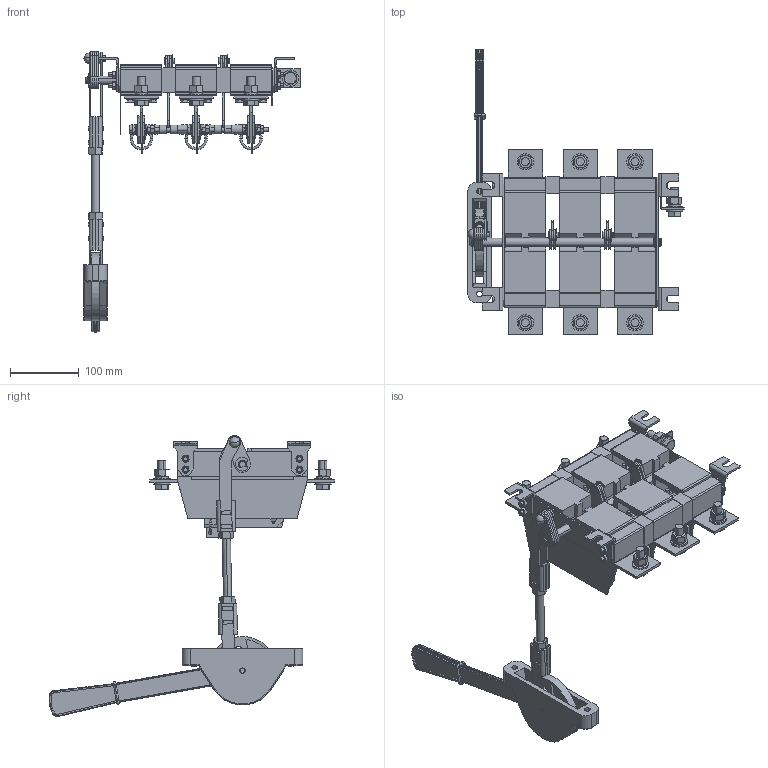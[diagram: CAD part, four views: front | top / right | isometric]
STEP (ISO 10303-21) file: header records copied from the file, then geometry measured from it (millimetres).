
FILE_DESCRIPTION (( 'STEP AP214' ), '1' );
FILE_NAME ('Ðàçúåäèíèòåëü ÐÅ19-39-31140-630À-ÓÕË3-ÊÝÀÇ.STEP', '2023-08-21T08:45:54', ( '' ), ( '' ), 'SwSTEP 2.0', 'SolidWorks 2018', '' );
FILE_SCHEMA (( 'AUTOMOTIVE_DESIGN' ));
Length unit declared in the file: millimetre
Products named in the file (1): Ðàçúåäèíèòåëü ÐÅ19-39-31140-630À-ÓÕË3-ÊÝÀÇ
Bounding box: 315.5 x 417.24 x 410.31 mm (x, y, z)
Surface area: 695409.9 mm2 (no closed solid volume)
Topology: 0 solids, 254 shells, 1878 faces, 6725 edges, 5034 vertices
Faces by surface type: plane 1092, cylinder 514, cone 173, torus 80, sphere 14, bspline 5
Entity records: 96765 total; most frequent: CARTESIAN_POINT 19063, DIRECTION 11932, ORIENTED_EDGE 10289, EDGE_CURVE 6711, VERTEX_POINT 5032, AXIS2_PLACEMENT_3D 4185, VECTOR 3562, LINE 3562
